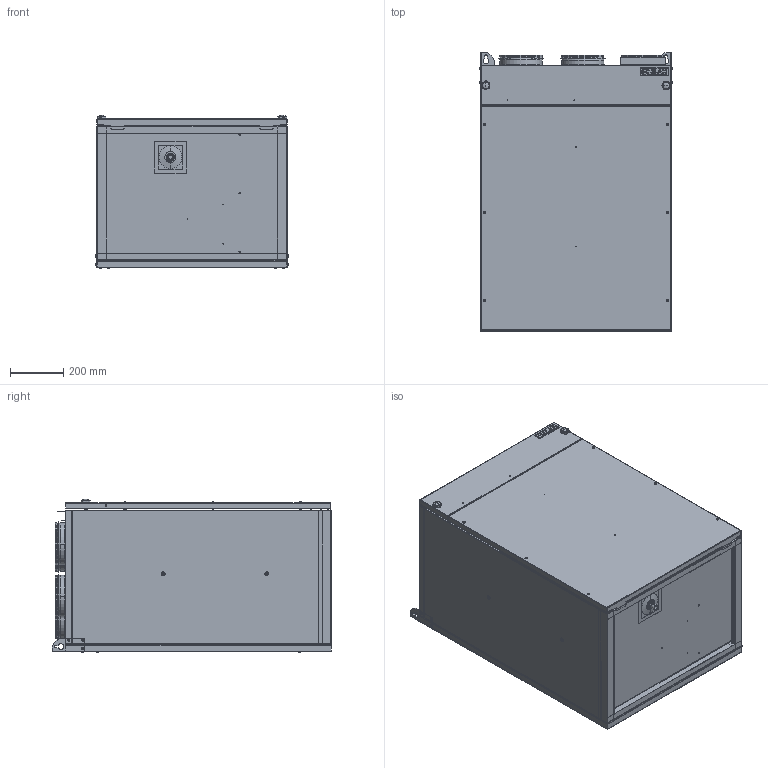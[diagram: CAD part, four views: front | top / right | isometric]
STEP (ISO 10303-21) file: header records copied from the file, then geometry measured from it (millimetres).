
FILE_DESCRIPTION (( 'STEP AP214' ), '1' );
FILE_NAME ('Comfort CT300_CT500.STEP', '2021-10-13T11:28:51', ( '' ), ( '' ), 'SwSTEP 2.0', 'SolidWorks 2021', '' );
FILE_SCHEMA (( 'AUTOMOTIVE_DESIGN' ));
Length unit declared in the file: millimetre
Products named in the file (26): JBC-Comfort300_Top_New_bagplade; JBC-Comfort300_Top_New_bund; JBC-Comfort300_Top_New_nederste_front_08-03-2017; JBC-Comfort300_Top_New_Ø160_dækplade_for_tegninger_Nr. 3; JBC-Comfort300_Top_New_kondensbakke-beslag_under_veksler_Udstilling; JBC-Comfort300_Top_New_Ø160_dækplade_for_tegninger_Nr. 2; JBC-Comfort300_Top_luftmåleslanger; JBC-Pladeskrue_4,2x35mm_selvskærende; JBC-Nilan_merkat; Comfort CT300_CT500; JBC-Plugs_7x7mm_Ø12-3,3; JBC-20mm_kondensafloeb_20mm kondensafl›b lang; JBC-Comfort300_Top_New_Afdækning_luftmålestudse_CT300 KERMI med stikforbindelser; JBC-160mm_rørstuds; JBC-Comfort300_Top_New_Ø160_dækplade_for_tegninger_Nr. 4; JBC-Nilan_Pladeskrue_3x9mm_torx; JBC-Comfort300_Top_v熚oph熡gsbeslag; JBC-Comfort300_Top_New_Alveolit_bagplade_DefaultSM-FLAT-PATTERN; JBC-Comfort300_Top_New_Venstre_sideplade; JBC-Fingerskrue_sekskant_M6x30; JBC-Popnitte_Popnitte 3,2 x 6; JBC-Comfort300_Top_New_Højre_sideplade; JBC-Comfort300_Top_New_toplåg; JBC-Comfort300_Top_New_Ø160_dækplade_for_tegninger_Nr. 1; JBC-Popnut_rund_Popnut_rund_M6; JBC-Comfort300_Top_New_øverste_forplade_08-03-2017
Assembly tree (55 placements, depth 2):
  JBC-Comfort300_Top_luftmåleslanger
  Comfort CT300_CT500
    JBC-20mm_kondensafloeb_20mm kondensafl›b lang
    JBC-Nilan_merkat
    JBC-Comfort300_Top_New_nederste_front_08-03-2017
    JBC-Comfort300_Top_New_øverste_forplade_08-03-2017
    JBC-Comfort300_Top_New_Venstre_sideplade
    JBC-Comfort300_Top_New_Højre_sideplade
    JBC-Comfort300_Top_New_bund
    JBC-Comfort300_Top_New_bagplade
    JBC-Comfort300_Top_New_toplåg
    JBC-Comfort300_Top_New_Afdækning_luftmålestudse_CT300 KERMI med stikforbindelser
    JBC-Comfort300_Top_New_kondensbakke-beslag_under_veksler_Udstilling
    JBC-Plugs_7x7mm_Ø12-3,3  x2
    JBC-Popnitte_Popnitte 3,2 x 6  x9
    JBC-160mm_rørstuds  x4
    JBC-Pladeskrue_4,2x35mm_selvskærende  x10
    JBC-Comfort300_Top_New_Ø160_dækplade_for_tegninger_Nr. 2
    JBC-Comfort300_Top_New_Ø160_dækplade_for_tegninger_Nr. 1
    JBC-Comfort300_Top_New_Ø160_dækplade_for_tegninger_Nr. 4
    JBC-Comfort300_Top_New_Ø160_dækplade_for_tegninger_Nr. 3
    JBC-Popnut_rund_Popnut_rund_M6  x2
    JBC-Nilan_Pladeskrue_3x9mm_torx  x8
    JBC-Comfort300_Top_v熚oph熡gsbeslag  x2
    JBC-Comfort300_Top_New_Alveolit_bagplade_DefaultSM-FLAT-PATTERN
    JBC-Fingerskrue_sekskant_M6x30  x2
Bounding box: 724.21 x 1050 x 576.71 mm (x, y, z)
Volume: 7798655.6 mm3; surface area: 9384322.1 mm2
Topology: 56 solids, 60 shells, 2899 faces, 6878 edges, 4126 vertices
Faces by surface type: cylinder 1199, plane 1021, torus 308, bspline 183, sphere 100, cone 88
Entity records: 56574 total; most frequent: CARTESIAN_POINT 17115, ORIENTED_EDGE 7720, DIRECTION 7462, EDGE_CURVE 3860, AXIS2_PLACEMENT_3D 2566, VERTEX_POINT 2405, LINE 2330, VECTOR 2330
